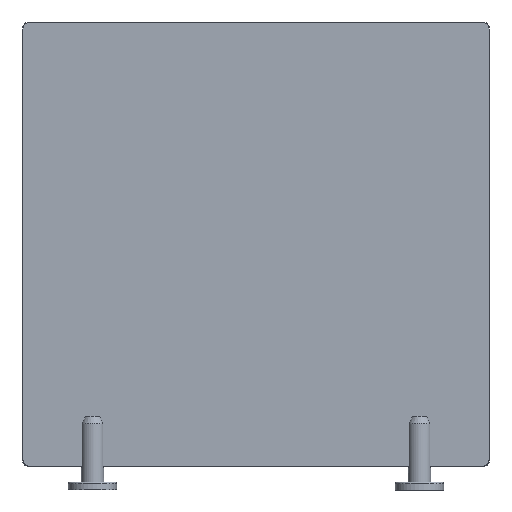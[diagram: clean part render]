
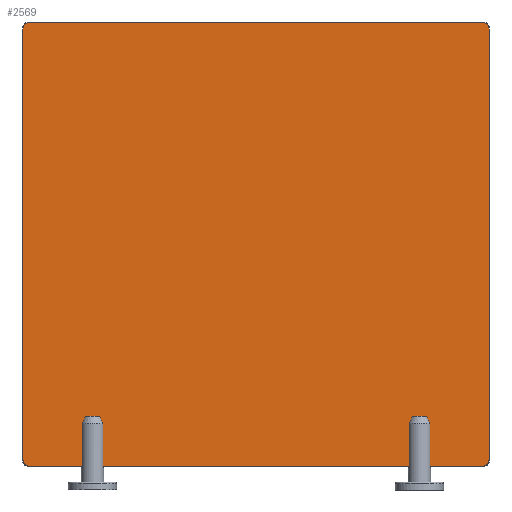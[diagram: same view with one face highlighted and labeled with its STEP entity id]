
A CAD part, front view. The second image highlights one B-rep face of the part: STEP entity #2569.
In plain terms, the highlighted planar face has unit normal (0, -1, 0) as drawn and (0, 0, 1) by its records, which use the part's own axes.
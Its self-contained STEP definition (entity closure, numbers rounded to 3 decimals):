
#203=LINE('',#4218,#343);
#204=LINE('',#4222,#344);
#205=LINE('',#4226,#345);
#206=LINE('',#4230,#346);
#343=VECTOR('',#3402,1000.);
#344=VECTOR('',#3405,1000.);
#345=VECTOR('',#3408,1000.);
#346=VECTOR('',#3411,1000.);
#941=ORIENTED_EDGE('',*,*,#1278,.T.);
#942=ORIENTED_EDGE('',*,*,#1279,.T.);
#943=ORIENTED_EDGE('',*,*,#1280,.T.);
#944=ORIENTED_EDGE('',*,*,#1281,.T.);
#945=ORIENTED_EDGE('',*,*,#1282,.T.);
#946=ORIENTED_EDGE('',*,*,#1283,.T.);
#947=ORIENTED_EDGE('',*,*,#1284,.T.);
#948=ORIENTED_EDGE('',*,*,#1285,.T.);
#1278=EDGE_CURVE('',#1501,#1502,#1600,.F.);
#1279=EDGE_CURVE('',#1502,#1503,#203,.T.);
#1280=EDGE_CURVE('',#1503,#1504,#1601,.F.);
#1281=EDGE_CURVE('',#1504,#1505,#204,.T.);
#1282=EDGE_CURVE('',#1505,#1506,#1602,.F.);
#1283=EDGE_CURVE('',#1506,#1507,#205,.T.);
#1284=EDGE_CURVE('',#1507,#1508,#1603,.F.);
#1285=EDGE_CURVE('',#1508,#1501,#206,.T.);
#1501=VERTEX_POINT('',#4216);
#1502=VERTEX_POINT('',#4217);
#1503=VERTEX_POINT('',#4219);
#1504=VERTEX_POINT('',#4221);
#1505=VERTEX_POINT('',#4223);
#1506=VERTEX_POINT('',#4225);
#1507=VERTEX_POINT('',#4227);
#1508=VERTEX_POINT('',#4229);
#1600=CIRCLE('',#2833,14.);
#1601=CIRCLE('',#2834,14.);
#1602=CIRCLE('',#2835,14.);
#1603=CIRCLE('',#2836,14.);
#1780=EDGE_LOOP('',(#941,#942,#943,#944,#945,#946,#947,#948));
#1968=FACE_BOUND('',#1780,.T.);
#2043=PLANE('',#2832);
#2569=ADVANCED_FACE('',(#1968),#2043,.F.);
#2832=AXIS2_PLACEMENT_3D('',#4214,#3398,#3399);
#2833=AXIS2_PLACEMENT_3D('',#4215,#3400,#3401);
#2834=AXIS2_PLACEMENT_3D('',#4220,#3403,#3404);
#2835=AXIS2_PLACEMENT_3D('',#4224,#3406,#3407);
#2836=AXIS2_PLACEMENT_3D('',#4228,#3409,#3410);
#3398=DIRECTION('',(0.,0.,-1.));
#3399=DIRECTION('',(-1.,0.,0.));
#3400=DIRECTION('',(0.,0.,-1.));
#3401=DIRECTION('',(-1.,0.,0.));
#3402=DIRECTION('',(0.,1.,0.));
#3403=DIRECTION('',(0.,0.,-1.));
#3404=DIRECTION('',(-1.,0.,0.));
#3405=DIRECTION('',(-1.,0.,0.));
#3406=DIRECTION('',(0.,0.,-1.));
#3407=DIRECTION('',(-1.,0.,0.));
#3408=DIRECTION('',(0.,-1.,0.));
#3409=DIRECTION('',(0.,0.,-1.));
#3410=DIRECTION('',(-1.,0.,0.));
#3411=DIRECTION('',(1.,0.,0.));
#4214=CARTESIAN_POINT('',(0.,0.,10.));
#4215=CARTESIAN_POINT('',(485.,-461.,10.));
#4216=CARTESIAN_POINT('',(485.,-475.,10.));
#4217=CARTESIAN_POINT('',(499.,-461.,10.));
#4218=CARTESIAN_POINT('',(499.,461.,10.));
#4219=CARTESIAN_POINT('',(499.,461.,10.));
#4220=CARTESIAN_POINT('',(485.,461.,10.));
#4221=CARTESIAN_POINT('',(485.,475.,10.));
#4222=CARTESIAN_POINT('',(-485.,475.,10.));
#4223=CARTESIAN_POINT('',(-485.,475.,10.));
#4224=CARTESIAN_POINT('',(-485.,461.,10.));
#4225=CARTESIAN_POINT('',(-499.,461.,10.));
#4226=CARTESIAN_POINT('',(-499.,-461.,10.));
#4227=CARTESIAN_POINT('',(-499.,-461.,10.));
#4228=CARTESIAN_POINT('',(-485.,-461.,10.));
#4229=CARTESIAN_POINT('',(-485.,-475.,10.));
#4230=CARTESIAN_POINT('',(485.,-475.,10.));
